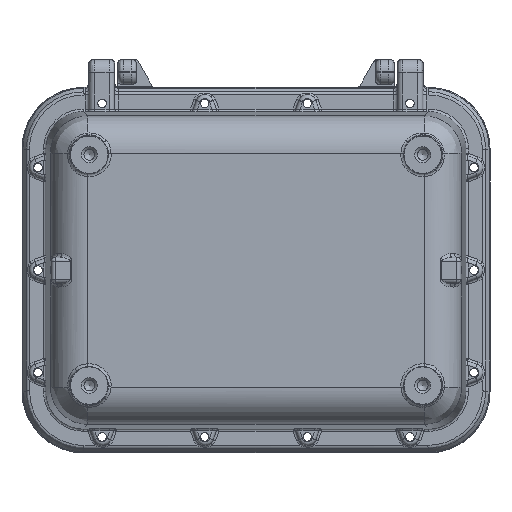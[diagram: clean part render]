
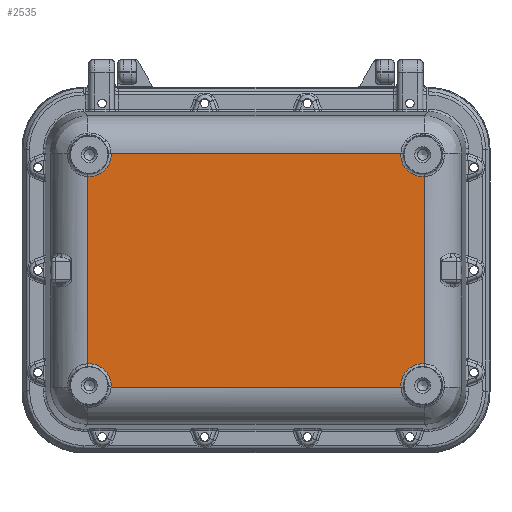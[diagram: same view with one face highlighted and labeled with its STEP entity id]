
A CAD part, front view. The second image highlights one B-rep face of the part: STEP entity #2535.
In plain terms, the highlighted planar face has unit normal (0, -1, 0).
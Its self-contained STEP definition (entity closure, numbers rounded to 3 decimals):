
#2535=ADVANCED_FACE('',(#23331),#23333,.T.);
#23331=FACE_BOUND('',#23332,.T.);
#23332=EDGE_LOOP('',(#48021,#48022,#48023,#48024,#48025,#48026,#48027,#48028));
#23333=PLANE('',#23334);
#23334=AXIS2_PLACEMENT_3D('',#23335,#23336,#23337);
#23335=CARTESIAN_POINT('',(0.,-170.,0.));
#23336=DIRECTION('',(0.,-1.,0.));
#23337=DIRECTION('',(1.,0.,0.));
#48021=ORIENTED_EDGE('',*,*,#57084,.T.);
#48022=ORIENTED_EDGE('',*,*,#57085,.F.);
#48023=ORIENTED_EDGE('',*,*,#57086,.T.);
#48024=ORIENTED_EDGE('',*,*,#57087,.F.);
#48025=ORIENTED_EDGE('',*,*,#56664,.T.);
#48026=ORIENTED_EDGE('',*,*,#57088,.F.);
#48027=ORIENTED_EDGE('',*,*,#57089,.T.);
#48028=ORIENTED_EDGE('',*,*,#57090,.F.);
#56664=EDGE_CURVE('',#61750,#61748,#61751,.T.);
#57084=EDGE_CURVE('',#62510,#62511,#62512,.T.);
#57085=EDGE_CURVE('',#62513,#62511,#62514,.T.);
#57086=EDGE_CURVE('',#62513,#62515,#62516,.T.);
#57087=EDGE_CURVE('',#61750,#62515,#62517,.T.);
#57088=EDGE_CURVE('',#62518,#61748,#62519,.T.);
#57089=EDGE_CURVE('',#62518,#62520,#62521,.T.);
#57090=EDGE_CURVE('',#62510,#62520,#62522,.T.);
#61748=VERTEX_POINT('',#76803);
#61750=VERTEX_POINT('',#76846);
#61751=LINE('',#76847,#76848);
#62510=VERTEX_POINT('',#81641);
#62511=VERTEX_POINT('',#81642);
#62512=LINE('',#81643,#81644);
#62513=VERTEX_POINT('',#81646);
#62514=CIRCLE('',#81647,17.03);
#62515=VERTEX_POINT('',#81651);
#62516=LINE('',#81652,#81653);
#62517=CIRCLE('',#81655,17.03);
#62518=VERTEX_POINT('',#81659);
#62519=CIRCLE('',#81660,17.03);
#62520=VERTEX_POINT('',#81664);
#62521=LINE('',#81665,#81666);
#62522=CIRCLE('',#81668,17.03);
#76803=CARTESIAN_POINT('',(-113.02,-170.,91.303));
#76846=CARTESIAN_POINT('',(113.02,-170.,91.303));
#76847=CARTESIAN_POINT('',(113.02,-170.,91.303));
#76848=VECTOR('',#76849,1.);
#76849=DIRECTION('',(-1.,0.,0.));
#81641=CARTESIAN_POINT('',(-113.02,-170.,-91.303));
#81642=CARTESIAN_POINT('',(113.02,-170.,-91.303));
#81643=CARTESIAN_POINT('',(-113.02,-170.,-91.303));
#81644=VECTOR('',#81645,1.);
#81645=DIRECTION('',(1.,0.,0.));
#81646=CARTESIAN_POINT('',(131.303,-170.,-73.02));
#81647=AXIS2_PLACEMENT_3D('',#81648,#81649,#81650);
#81648=CARTESIAN_POINT('',(130.,-170.,-90.));
#81649=DIRECTION('',(0.,-1.,0.));
#81650=DIRECTION('',(0.076,0.,0.997));
#81651=CARTESIAN_POINT('',(131.303,-170.,73.02));
#81652=CARTESIAN_POINT('',(131.303,-170.,-73.02));
#81653=VECTOR('',#81654,1.);
#81654=DIRECTION('',(0.,0.,1.));
#81655=AXIS2_PLACEMENT_3D('',#81656,#81657,#81658);
#81656=CARTESIAN_POINT('',(130.,-170.,90.));
#81657=DIRECTION('',(0.,-1.,0.));
#81658=DIRECTION('',(-0.997,0.,0.076));
#81659=CARTESIAN_POINT('',(-131.303,-170.,73.02));
#81660=AXIS2_PLACEMENT_3D('',#81661,#81662,#81663);
#81661=CARTESIAN_POINT('',(-130.,-170.,90.));
#81662=DIRECTION('',(0.,-1.,0.));
#81663=DIRECTION('',(-0.076,0.,-0.997));
#81664=CARTESIAN_POINT('',(-131.303,-170.,-73.02));
#81665=CARTESIAN_POINT('',(-131.303,-170.,73.02));
#81666=VECTOR('',#81667,1.);
#81667=DIRECTION('',(0.,0.,-1.));
#81668=AXIS2_PLACEMENT_3D('',#81669,#81670,#81671);
#81669=CARTESIAN_POINT('',(-130.,-170.,-90.));
#81670=DIRECTION('',(0.,-1.,0.));
#81671=DIRECTION('',(0.997,0.,-0.076));
